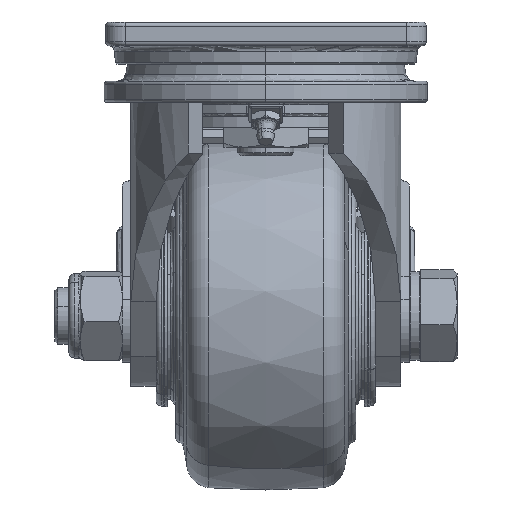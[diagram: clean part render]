
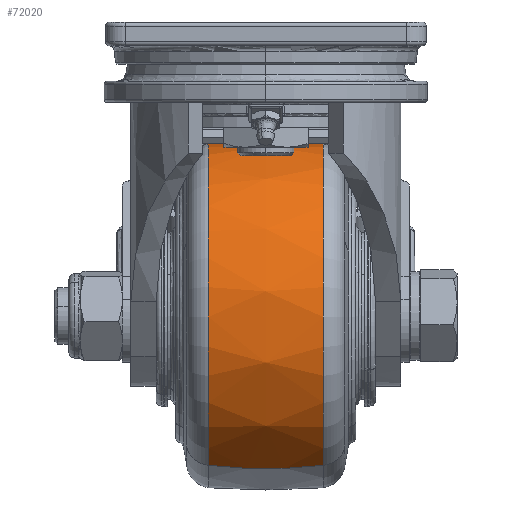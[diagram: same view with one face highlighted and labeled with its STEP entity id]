
A CAD part, left-side view. The second image highlights one B-rep face of the part: STEP entity #72020.
In plain terms, the highlighted free-form (B-spline) face has degree [2, 2] with [3, 9] control points.
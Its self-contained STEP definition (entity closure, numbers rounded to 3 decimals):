
#341=CARTESIAN_POINT('',(74.414,-20.406,-21.39));
#342=VERTEX_POINT('',#341);
#360=CARTESIAN_POINT('',(13.976,-20.406,-127.61));
#361=VERTEX_POINT('',#360);
#414=CARTESIAN_POINT('',(74.414,20.406,-21.39));
#415=VERTEX_POINT('',#414);
#416=CARTESIAN_POINT('',(0.923,0.,-150.551));
#417=DIRECTION('',(-0.869,0.,0.495));
#418=DIRECTION('',(0.495,0.,0.869));
#419=AXIS2_PLACEMENT_3D('',#416,#417,#418);
#420=CIRCLE('',#419,150.0);
#421=EDGE_CURVE('',#342,#415,#420,.T.);
#424=CARTESIAN_POINT('',(13.976,20.406,-127.61));
#425=VERTEX_POINT('',#424);
#426=CARTESIAN_POINT('',(87.467,0.,1.551));
#427=DIRECTION('',(0.869,0.,-0.495));
#428=DIRECTION('',(-0.495,0.,-0.869));
#429=AXIS2_PLACEMENT_3D('',#426,#427,#428);
#430=CIRCLE('',#429,150.0);
#431=EDGE_CURVE('',#361,#425,#430,.T.);
#71944=CARTESIAN_POINT('',(-8.915,20.406,-44.281));
#71945=VERTEX_POINT('',#71944);
#71946=CARTESIAN_POINT('',(44.195,20.406,-74.5));
#71947=DIRECTION('',(0.,-1.,0.));
#71948=DIRECTION('',(-0.869,0.,0.495));
#71949=AXIS2_PLACEMENT_3D('',#71946,#71947,#71948);
#71950=CIRCLE('',#71949,61.106);
#71951=EDGE_CURVE('',#71945,#425,#71950,.T.);
#71953=CARTESIAN_POINT('',(44.195,20.406,-74.5));
#71954=DIRECTION('',(0.,-1.,0.));
#71955=DIRECTION('',(-0.869,0.,0.495));
#71956=AXIS2_PLACEMENT_3D('',#71953,#71954,#71955);
#71957=CIRCLE('',#71956,61.106);
#71958=EDGE_CURVE('',#415,#71945,#71957,.T.);
#71963=CARTESIAN_POINT('',(13.976,20.406,-127.61));
#71964=CARTESIAN_POINT('',(12.591,0.,-130.046));
#71965=CARTESIAN_POINT('',(13.976,-20.406,-127.61));
#71966=CARTESIAN_POINT('',(-39.134,20.406,-97.391));
#71967=CARTESIAN_POINT('',(-42.955,0.,-98.441));
#71968=CARTESIAN_POINT('',(-39.134,-20.406,-97.391));
#71969=CARTESIAN_POINT('',(-8.915,20.406,-44.281));
#71970=CARTESIAN_POINT('',(-11.35,0.,-42.895));
#71971=CARTESIAN_POINT('',(-8.915,-20.406,-44.281));
#71972=CARTESIAN_POINT('',(21.304,20.406,8.829));
#71973=CARTESIAN_POINT('',(20.254,0.,12.65));
#71974=CARTESIAN_POINT('',(21.304,-20.406,8.829));
#71975=CARTESIAN_POINT('',(74.414,20.406,-21.39));
#71976=CARTESIAN_POINT('',(75.8,0.,-18.954));
#71977=CARTESIAN_POINT('',(74.414,-20.406,-21.39));
#71978=CARTESIAN_POINT('',(127.525,20.406,-51.609));
#71979=CARTESIAN_POINT('',(131.346,0.,-50.559));
#71980=CARTESIAN_POINT('',(127.525,-20.406,-51.609));
#71981=CARTESIAN_POINT('',(97.306,20.406,-104.719));
#71982=CARTESIAN_POINT('',(99.741,0.,-106.105));
#71983=CARTESIAN_POINT('',(97.306,-20.406,-104.719));
#71984=CARTESIAN_POINT('',(67.087,20.406,-157.829));
#71985=CARTESIAN_POINT('',(68.136,0.,-161.65));
#71986=CARTESIAN_POINT('',(67.087,-20.406,-157.829));
#71987=CARTESIAN_POINT('',(13.976,20.406,-127.61));
#71988=CARTESIAN_POINT('',(12.591,0.,-130.046));
#71989=CARTESIAN_POINT('',(13.976,-20.406,-127.61));
#71997=(BOUNDED_SURFACE()B_SPLINE_SURFACE(2,2,((#71963,#71966,#71969,#71972,#71975,#71978,#71981,#71984,#71987),(#71964,#71967,#71970,#71973,#71976,#71979,#71982,#71985,#71988),(#71965,#71968,#71971,#71974,#71977,#71980,#71983,#71986,#71989)),.UNSPECIFIED.,.F.,.T.,.U.)B_SPLINE_SURFACE_WITH_KNOTS((3,3),(3,2,2,2,3),(-0.136,0.136),(0.0,1.571,3.142,4.712,6.283),.UNSPECIFIED.)GEOMETRIC_REPRESENTATION_ITEM()RATIONAL_B_SPLINE_SURFACE(((1.0,0.707,1.0,0.707,1.0,0.707,1.0,0.707,1.0),(0.991,0.701,0.991,0.701,0.991,0.701,0.991,0.701,0.991),(1.0,0.707,1.0,0.707,1.0,0.707,1.0,0.707,1.0)))REPRESENTATION_ITEM('')SURFACE());
#71998=ORIENTED_EDGE('',*,*,#421,.T.);
#71999=ORIENTED_EDGE('',*,*,#71958,.T.);
#72000=ORIENTED_EDGE('',*,*,#71951,.T.);
#72001=ORIENTED_EDGE('',*,*,#431,.F.);
#72002=CARTESIAN_POINT('',(-8.915,-20.406,-44.281));
#72003=VERTEX_POINT('',#72002);
#72004=CARTESIAN_POINT('',(44.195,-20.406,-74.5));
#72005=DIRECTION('',(0.,-1.0,0.));
#72006=DIRECTION('',(-0.869,0.,0.495));
#72007=AXIS2_PLACEMENT_3D('',#72004,#72005,#72006);
#72008=CIRCLE('',#72007,61.106);
#72009=EDGE_CURVE('',#72003,#361,#72008,.T.);
#72010=ORIENTED_EDGE('',*,*,#72009,.F.);
#72011=CARTESIAN_POINT('',(44.195,-20.406,-74.5));
#72012=DIRECTION('',(0.,-1.0,0.));
#72013=DIRECTION('',(-0.869,0.,0.495));
#72014=AXIS2_PLACEMENT_3D('',#72011,#72012,#72013);
#72015=CIRCLE('',#72014,61.106);
#72016=EDGE_CURVE('',#342,#72003,#72015,.T.);
#72017=ORIENTED_EDGE('',*,*,#72016,.F.);
#72018=EDGE_LOOP('',(#71998,#71999,#72000,#72001,#72010,#72017));
#72019=FACE_OUTER_BOUND('',#72018,.T.);
#72020=ADVANCED_FACE('',(#72019),#71997,.T.);
